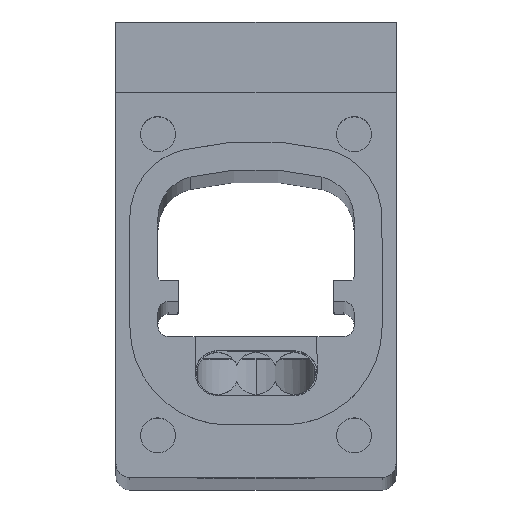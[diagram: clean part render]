
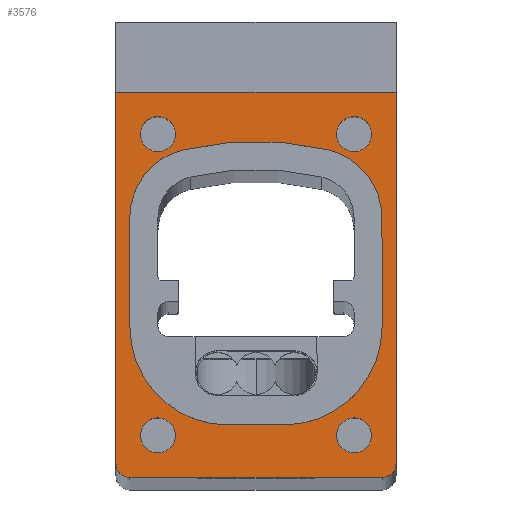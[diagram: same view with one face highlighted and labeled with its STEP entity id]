
A CAD part, top view. The second image highlights one B-rep face of the part: STEP entity #3576.
In plain terms, the highlighted planar face has unit normal (0, 0, 1).
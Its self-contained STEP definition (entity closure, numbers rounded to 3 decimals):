
#644=CARTESIAN_POINT('',(309.401,-1534.144,3037.462));
#645=DIRECTION('',(0.,0.,1.));
#646=DIRECTION('',(1.,0.,0.));
#647=AXIS2_PLACEMENT_3D('',#644,#645,#646);
#649=CARTESIAN_POINT('',(309.401,-1534.144,3037.462));
#650=DIRECTION('',(0.,0.,1.));
#651=DIRECTION('',(-1.,0.,0.));
#652=AXIS2_PLACEMENT_3D('',#649,#650,#651);
#654=CARTESIAN_POINT('',(323.401,-1534.144,3037.462));
#655=DIRECTION('',(0.,0.,1.));
#656=DIRECTION('',(1.,0.,0.));
#657=AXIS2_PLACEMENT_3D('',#654,#655,#656);
#659=CARTESIAN_POINT('',(323.401,-1534.144,3037.462));
#660=DIRECTION('',(0.,0.,1.));
#661=DIRECTION('',(-1.,0.,0.));
#662=AXIS2_PLACEMENT_3D('',#659,#660,#661);
#664=CARTESIAN_POINT('',(309.401,-1555.644,3037.462));
#665=DIRECTION('',(0.,0.,1.));
#666=DIRECTION('',(1.,0.,0.));
#667=AXIS2_PLACEMENT_3D('',#664,#665,#666);
#669=CARTESIAN_POINT('',(309.401,-1555.644,3037.462));
#670=DIRECTION('',(0.,0.,1.));
#671=DIRECTION('',(-1.,0.,0.));
#672=AXIS2_PLACEMENT_3D('',#669,#670,#671);
#674=CARTESIAN_POINT('',(323.401,-1555.644,3037.462));
#675=DIRECTION('',(0.,0.,1.));
#676=DIRECTION('',(1.,0.,0.));
#677=AXIS2_PLACEMENT_3D('',#674,#675,#676);
#679=CARTESIAN_POINT('',(323.401,-1555.644,3037.462));
#680=DIRECTION('',(0.,0.,1.));
#681=DIRECTION('',(-1.,0.,0.));
#682=AXIS2_PLACEMENT_3D('',#679,#680,#681);
#684=CARTESIAN_POINT('',(320.389,-1540.124,3037.462));
#685=DIRECTION('',(0.,0.,1.));
#686=DIRECTION('',(1.,0.001,0.));
#687=AXIS2_PLACEMENT_3D('',#684,#685,#686);
#689=CARTESIAN_POINT('',(316.385,-1556.644,3037.462));
#690=DIRECTION('',(0.,0.,1.));
#691=DIRECTION('',(0.235,0.972,0.));
#692=AXIS2_PLACEMENT_3D('',#689,#690,#691);
#694=CARTESIAN_POINT('',(312.389,-1540.118,3037.462));
#695=DIRECTION('',(0.,0.,1.));
#696=DIRECTION('',(-0.236,0.972,0.));
#697=AXIS2_PLACEMENT_3D('',#694,#695,#696);
#699=DIRECTION('',(0.001,-1.,0.));
#700=VECTOR('',#699,7.773);
#701=CARTESIAN_POINT('',(307.391,-1540.121,3037.462));
#702=LINE('',#701,#700);
#703=CARTESIAN_POINT('',(314.395,-1547.899,3037.462));
#704=DIRECTION('',(0.,0.,1.));
#705=DIRECTION('',(-1.,0.001,0.));
#706=AXIS2_PLACEMENT_3D('',#703,#704,#705);
#708=DIRECTION('',(1.,0.,0.));
#709=VECTOR('',#708,4.);
#710=CARTESIAN_POINT('',(314.384,-1554.893,3037.462));
#711=LINE('',#710,#709);
#712=CARTESIAN_POINT('',(318.395,-1547.888,3037.462));
#713=DIRECTION('',(0.,0.,1.));
#714=DIRECTION('',(-0.002,-1.,0.));
#715=AXIS2_PLACEMENT_3D('',#712,#713,#714);
#717=DIRECTION('',(-0.001,1.,0.));
#718=VECTOR('',#717,7.773);
#719=CARTESIAN_POINT('',(325.401,-1547.894,3037.462));
#720=LINE('',#719,#718);
#721=CARTESIAN_POINT('',(325.401,-1557.644,3037.462));
#722=DIRECTION('',(0.,0.,1.));
#723=DIRECTION('',(0.,-1.,0.));
#724=AXIS2_PLACEMENT_3D('',#721,#722,#723);
#726=DIRECTION('',(1.,0.,0.));
#727=VECTOR('',#726,18.);
#728=CARTESIAN_POINT('',(307.401,-1558.644,3037.462));
#729=LINE('',#728,#727);
#730=CARTESIAN_POINT('',(307.401,-1557.644,3037.462));
#731=DIRECTION('',(0.,0.,1.));
#732=DIRECTION('',(-1.,0.,0.));
#733=AXIS2_PLACEMENT_3D('',#730,#731,#732);
#735=DIRECTION('',(0.,-1.,0.));
#736=VECTOR('',#735,26.5);
#737=CARTESIAN_POINT('',(306.401,-1531.144,3037.462));
#738=LINE('',#737,#736);
#739=DIRECTION('',(1.,0.,0.));
#740=VECTOR('',#739,20.);
#741=CARTESIAN_POINT('',(306.401,-1531.144,3037.462));
#742=LINE('',#741,#740);
#743=DIRECTION('',(0.,1.,0.));
#744=VECTOR('',#743,26.5);
#745=CARTESIAN_POINT('',(326.401,-1557.644,3037.462));
#746=LINE('',#745,#744);
#2450=CARTESIAN_POINT('',(306.401,-1531.144,3037.462));
#2451=CARTESIAN_POINT('',(326.401,-1531.144,3037.462));
#2452=VERTEX_POINT('',#2450);
#2453=VERTEX_POINT('',#2451);
#2510=CARTESIAN_POINT('',(310.651,-1534.144,3037.462));
#2511=CARTESIAN_POINT('',(308.151,-1534.144,3037.462));
#2512=VERTEX_POINT('',#2510);
#2513=VERTEX_POINT('',#2511);
#2514=CARTESIAN_POINT('',(324.651,-1534.144,3037.462));
#2515=CARTESIAN_POINT('',(322.151,-1534.144,3037.462));
#2516=VERTEX_POINT('',#2514);
#2517=VERTEX_POINT('',#2515);
#2518=CARTESIAN_POINT('',(310.651,-1555.644,3037.462));
#2519=CARTESIAN_POINT('',(308.151,-1555.644,3037.462));
#2520=VERTEX_POINT('',#2518);
#2521=VERTEX_POINT('',#2519);
#2522=CARTESIAN_POINT('',(324.651,-1555.644,3037.462));
#2523=CARTESIAN_POINT('',(322.151,-1555.644,3037.462));
#2524=VERTEX_POINT('',#2522);
#2525=VERTEX_POINT('',#2523);
#2542=CARTESIAN_POINT('',(325.391,-1540.121,3037.462));
#2543=CARTESIAN_POINT('',(321.56,-1535.261,3037.462));
#2544=VERTEX_POINT('',#2542);
#2545=VERTEX_POINT('',#2543);
#2546=CARTESIAN_POINT('',(311.207,-1535.262,3037.462));
#2547=VERTEX_POINT('',#2546);
#2548=CARTESIAN_POINT('',(307.391,-1540.121,3037.462));
#2549=VERTEX_POINT('',#2548);
#2550=CARTESIAN_POINT('',(307.401,-1547.894,3037.462));
#2551=VERTEX_POINT('',#2550);
#2552=CARTESIAN_POINT('',(314.384,-1554.893,3037.462));
#2553=VERTEX_POINT('',#2552);
#2554=CARTESIAN_POINT('',(318.384,-1554.894,3037.462));
#2555=VERTEX_POINT('',#2554);
#2556=CARTESIAN_POINT('',(325.401,-1547.894,3037.462));
#2557=VERTEX_POINT('',#2556);
#2781=CARTESIAN_POINT('',(325.401,-1558.644,3037.462));
#2782=VERTEX_POINT('',#2781);
#2783=CARTESIAN_POINT('',(326.401,-1557.644,3037.462));
#2784=VERTEX_POINT('',#2783);
#2789=CARTESIAN_POINT('',(306.401,-1557.644,3037.462));
#2790=VERTEX_POINT('',#2789);
#2791=CARTESIAN_POINT('',(307.401,-1558.644,3037.462));
#2792=VERTEX_POINT('',#2791);
#3518=CARTESIAN_POINT('',(316.401,-1543.644,3037.462));
#3519=DIRECTION('',(0.,0.,1.));
#3520=DIRECTION('',(1.,0.,0.));
#3521=AXIS2_PLACEMENT_3D('',#3518,#3519,#3520);
#3522=PLANE('',#3521);
#3523=ORIENTED_EDGE('',*,*,#3140,.F.);
#3524=ORIENTED_EDGE('',*,*,#3156,.F.);
#3526=ORIENTED_EDGE('',*,*,#3525,.F.);
#3528=ORIENTED_EDGE('',*,*,#3527,.F.);
#3530=ORIENTED_EDGE('',*,*,#3529,.T.);
#3532=ORIENTED_EDGE('',*,*,#3531,.F.);
#3533=EDGE_LOOP('',(#3523,#3524,#3526,#3528,#3530,#3532));
#3534=FACE_OUTER_BOUND('',#3533,.F.);
#3536=ORIENTED_EDGE('',*,*,#3535,.T.);
#3538=ORIENTED_EDGE('',*,*,#3537,.T.);
#3539=EDGE_LOOP('',(#3536,#3538));
#3540=FACE_BOUND('',#3539,.F.);
#3542=ORIENTED_EDGE('',*,*,#3541,.T.);
#3544=ORIENTED_EDGE('',*,*,#3543,.T.);
#3545=EDGE_LOOP('',(#3542,#3544));
#3546=FACE_BOUND('',#3545,.F.);
#3548=ORIENTED_EDGE('',*,*,#3547,.T.);
#3550=ORIENTED_EDGE('',*,*,#3549,.T.);
#3551=EDGE_LOOP('',(#3548,#3550));
#3552=FACE_BOUND('',#3551,.F.);
#3553=ORIENTED_EDGE('',*,*,#3508,.T.);
#3555=ORIENTED_EDGE('',*,*,#3554,.T.);
#3557=ORIENTED_EDGE('',*,*,#3556,.T.);
#3559=ORIENTED_EDGE('',*,*,#3558,.T.);
#3561=ORIENTED_EDGE('',*,*,#3560,.T.);
#3563=ORIENTED_EDGE('',*,*,#3562,.T.);
#3565=ORIENTED_EDGE('',*,*,#3564,.T.);
#3567=ORIENTED_EDGE('',*,*,#3566,.T.);
#3568=EDGE_LOOP('',(#3553,#3555,#3557,#3559,#3561,#3563,#3565,#3567));
#3569=FACE_BOUND('',#3568,.F.);
#3571=ORIENTED_EDGE('',*,*,#3570,.T.);
#3573=ORIENTED_EDGE('',*,*,#3572,.T.);
#3574=EDGE_LOOP('',(#3571,#3573));
#3575=FACE_BOUND('',#3574,.F.);
#3576=ADVANCED_FACE('',(#3534,#3540,#3546,#3552,#3569,#3575),#3522,.T.);
#648=CIRCLE('',#647,1.25);
#653=CIRCLE('',#652,1.25);
#658=CIRCLE('',#657,1.25);
#663=CIRCLE('',#662,1.25);
#668=CIRCLE('',#667,1.25);
#673=CIRCLE('',#672,1.25);
#678=CIRCLE('',#677,1.25);
#683=CIRCLE('',#682,1.25);
#688=CIRCLE('',#687,5.002);
#693=CIRCLE('',#692,22.);
#698=CIRCLE('',#697,4.998);
#707=CIRCLE('',#706,6.994);
#716=CIRCLE('',#715,7.006);
#725=CIRCLE('',#724,1.);
#734=CIRCLE('',#733,1.);
#3140=EDGE_CURVE('',#2782,#2784,#725,.T.);
#3156=EDGE_CURVE('',#2792,#2782,#729,.T.);
#3508=EDGE_CURVE('',#2544,#2545,#688,.T.);
#3525=EDGE_CURVE('',#2790,#2792,#734,.T.);
#3527=EDGE_CURVE('',#2452,#2790,#738,.T.);
#3529=EDGE_CURVE('',#2452,#2453,#742,.T.);
#3531=EDGE_CURVE('',#2784,#2453,#746,.T.);
#3535=EDGE_CURVE('',#2516,#2517,#658,.T.);
#3537=EDGE_CURVE('',#2517,#2516,#663,.T.);
#3541=EDGE_CURVE('',#2520,#2521,#668,.T.);
#3543=EDGE_CURVE('',#2521,#2520,#673,.T.);
#3547=EDGE_CURVE('',#2524,#2525,#678,.T.);
#3549=EDGE_CURVE('',#2525,#2524,#683,.T.);
#3554=EDGE_CURVE('',#2545,#2547,#693,.T.);
#3556=EDGE_CURVE('',#2547,#2549,#698,.T.);
#3558=EDGE_CURVE('',#2549,#2551,#702,.T.);
#3560=EDGE_CURVE('',#2551,#2553,#707,.T.);
#3562=EDGE_CURVE('',#2553,#2555,#711,.T.);
#3564=EDGE_CURVE('',#2555,#2557,#716,.T.);
#3566=EDGE_CURVE('',#2557,#2544,#720,.T.);
#3570=EDGE_CURVE('',#2512,#2513,#648,.T.);
#3572=EDGE_CURVE('',#2513,#2512,#653,.T.);
